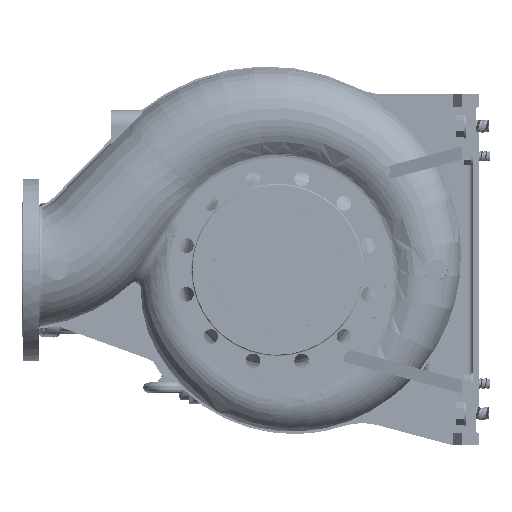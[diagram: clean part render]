
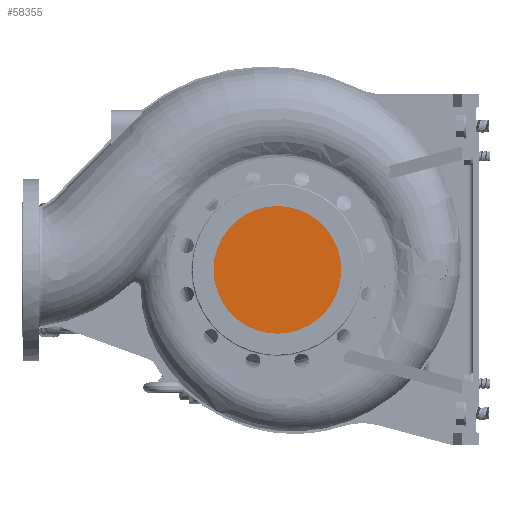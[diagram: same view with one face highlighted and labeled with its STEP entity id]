
A CAD part, left-side view. The second image highlights one B-rep face of the part: STEP entity #58355.
In plain terms, the highlighted planar face has unit normal (-1, 0, 0).
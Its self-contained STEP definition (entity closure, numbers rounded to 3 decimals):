
#401 = CARTESIAN_POINT ( 'NONE',  ( -149.998, -13.09, 99.355 ) ) ;
#448 = CARTESIAN_POINT ( 'NONE',  ( -149.998, 96.802, -25.928 ) ) ;
#1294 = CARTESIAN_POINT ( 'NONE',  ( -149.998, -100., 6.545 ) ) ;
#1339 = CARTESIAN_POINT ( 'NONE',  ( -149.998, 44.315, 89.883 ) ) ;
#2163 = CARTESIAN_POINT ( 'NONE',  ( -149.998, -75.339, 66.083 ) ) ;
#4834 = CARTESIAN_POINT ( 'NONE',  ( -149.998, -66.083, -75.339 ) ) ;
#13994 = CARTESIAN_POINT ( 'NONE',  ( -149.998, 79.511, -60.999 ) ) ;
#14892 = CARTESIAN_POINT ( 'NONE',  ( -149.998, 66.083, 75.339 ) ) ;
#16615 = CARTESIAN_POINT ( 'NONE',  ( -149.998, -32.222, 94.893 ) ) ;
#16663 = CARTESIAN_POINT ( 'NONE',  ( -149.998, 89.883, -44.315 ) ) ;
#17996 = EDGE_CURVE ( 'NONE', #22426, #149274, #138434, .T. ) ;
#20157 = CARTESIAN_POINT ( 'NONE',  ( -149.998, -50.115, -86.783 ) ) ;
#22426 = VERTEX_POINT ( 'NONE', #32345 ) ;
#24644 = PLANE ( 'NONE',  #178271 ) ;
#27558 = CARTESIAN_POINT ( 'NONE',  ( -149.998, 25.928, -96.802 ) ) ;
#28441 = CARTESIAN_POINT ( 'NONE',  ( -149.998, 100., -6.545 ) ) ;
#29291 = CARTESIAN_POINT ( 'NONE',  ( -149.998, -100., -6.545 ) ) ;
#29339 = CARTESIAN_POINT ( 'NONE',  ( -149.998, 32.222, -94.893 ) ) ;
#30243 = CARTESIAN_POINT ( 'NONE',  ( -149.998, 60.999, -79.511 ) ) ;
#32345 = CARTESIAN_POINT ( 'NONE',  ( -149.998, 0., -100. ) ) ;
#34624 = CARTESIAN_POINT ( 'NONE',  ( -149.998, -44.315, -89.883 ) ) ;
#41992 = CARTESIAN_POINT ( 'NONE',  ( -149.998, 79.511, 60.999 ) ) ;
#42878 = CARTESIAN_POINT ( 'NONE',  ( -149.998, 94.893, 32.222 ) ) ;
#43719 = CARTESIAN_POINT ( 'NONE',  ( -149.998, -99.355, 13.09 ) ) ;
#43765 = CARTESIAN_POINT ( 'NONE',  ( -149.998, 6.545, -100. ) ) ;
#45501 = CARTESIAN_POINT ( 'NONE',  ( -149.998, -6.545, -100. ) ) ;
#47324 = CARTESIAN_POINT ( 'NONE',  ( -149.998, 0., 100. ) ) ;
#48171 = CARTESIAN_POINT ( 'NONE',  ( -149.998, -25.928, -96.802 ) ) ;
#55523 = CARTESIAN_POINT ( 'NONE',  ( -149.998, -25.928, 96.802 ) ) ;
#55573 = CARTESIAN_POINT ( 'NONE',  ( -149.998, 99.355, -13.09 ) ) ;
#56238 = DIRECTION ( 'NONE',  ( 0., 0., 1. ) ) ;
#58355 = ADVANCED_FACE ( 'NONE', ( #148399 ), #24644, .T. ) ;
#59961 = CARTESIAN_POINT ( 'NONE',  ( -149.998, -89.883, -44.315 ) ) ;
#60004 = CARTESIAN_POINT ( 'NONE',  ( -149.998, 25.928, 96.802 ) ) ;
#69132 = CARTESIAN_POINT ( 'NONE',  ( -149.998, 86.783, -50.115 ) ) ;
#69980 = CARTESIAN_POINT ( 'NONE',  ( -149.998, -86.783, 50.115 ) ) ;
#70030 = CARTESIAN_POINT ( 'NONE',  ( -149.998, 60.999, 79.511 ) ) ;
#71805 = CARTESIAN_POINT ( 'NONE',  ( -149.998, 100., 6.545 ) ) ;
#73584 = CARTESIAN_POINT ( 'NONE',  ( -149.998, 13.09, 99.355 ) ) ;
#74412 = CARTESIAN_POINT ( 'NONE',  ( -149.998, -94.893, -32.222 ) ) ;
#79795 = CARTESIAN_POINT ( 'NONE',  ( -149.998, -101.2, -101.2 ) ) ;
#82647 = CARTESIAN_POINT ( 'NONE',  ( -149.998, 0., 100. ) ) ;
#82692 = CARTESIAN_POINT ( 'NONE',  ( -149.998, 66.083, -75.339 ) ) ;
#86206 = CARTESIAN_POINT ( 'NONE',  ( -149.998, -86.783, -50.115 ) ) ;
#97094 = CARTESIAN_POINT ( 'NONE',  ( -149.998, -60.999, 79.511 ) ) ;
#97983 = CARTESIAN_POINT ( 'NONE',  ( -149.998, -6.545, 100. ) ) ;
#98030 = CARTESIAN_POINT ( 'NONE',  ( -149.998, 86.783, 50.115 ) ) ;
#98931 = CARTESIAN_POINT ( 'NONE',  ( -149.998, 13.09, -99.355 ) ) ;
#102436 = CARTESIAN_POINT ( 'NONE',  ( -149.998, -13.09, -99.355 ) ) ;
#108904 = CARTESIAN_POINT ( 'NONE',  ( -149.998, 75.339, 66.083 ) ) ;
#110702 = CARTESIAN_POINT ( 'NONE',  ( -149.998, 96.802, 25.928 ) ) ;
#115151 = ORIENTED_EDGE ( 'NONE', *, *, #17996, .F. ) ;
#115983 = CARTESIAN_POINT ( 'NONE',  ( -149.998, -96.802, -25.928 ) ) ;
#116028 = CARTESIAN_POINT ( 'NONE',  ( -149.998, 6.545, 100. ) ) ;
#116874 = CARTESIAN_POINT ( 'NONE',  ( -149.998, -32.222, -94.893 ) ) ;
#121756 = CARTESIAN_POINT ( 'NONE',  ( -149.998, 0., 100. ) ) ;
#123252 = ORIENTED_EDGE ( 'NONE', *, *, #148605, .F. ) ;
#124240 = CARTESIAN_POINT ( 'NONE',  ( -149.998, 94.893, -32.222 ) ) ;
#125080 = CARTESIAN_POINT ( 'NONE',  ( -149.998, -96.802, 25.928 ) ) ;
#125127 = CARTESIAN_POINT ( 'NONE',  ( -149.998, 50.115, 86.783 ) ) ;
#125975 = CARTESIAN_POINT ( 'NONE',  ( -149.998, -50.115, 86.783 ) ) ;
#126915 = CARTESIAN_POINT ( 'NONE',  ( -149.998, 99.355, 13.09 ) ) ;
#128105 = B_SPLINE_CURVE_WITH_KNOTS ( 'NONE', 3,
 ( #82647, #97983, #401, #55523, #16615, #165747, #125975, #97094, #152150, #2163, #138613, #69980, #153049, #139514, #125080, #43719, #1294, #29291, #159280, #115983, #74412, #59961, #86206, #130398, #171952, #4834, #129522, #20157, #34624, #116874, #48171, #102436, #45501, #141273 ),
 .UNSPECIFIED., .F., .F.,
 ( 4, 2, 2, 2, 2, 2, 2, 2, 2, 2, 2, 2, 2, 2, 2, 2, 4 ),
 ( 0., 0.063, 0.125, 0.188, 0.25, 0.313, 0.375, 0.438, 0.5, 0.562, 0.625, 0.687, 0.75, 0.812, 0.875, 0.937, 1. ),
 .UNSPECIFIED. ) ;
#129522 = CARTESIAN_POINT ( 'NONE',  ( -149.998, -60.999, -79.511 ) ) ;
#130398 = CARTESIAN_POINT ( 'NONE',  ( -149.998, -79.511, -60.999 ) ) ;
#137547 = DIRECTION ( 'NONE',  ( -1., 0., 0. ) ) ;
#138434 = B_SPLINE_CURVE_WITH_KNOTS ( 'NONE', 3,
 ( #151315, #43765, #98931, #27558, #29339, #152198, #153998, #30243, #82692, #140441, #13994, #69132, #16663, #124240, #448, #55573, #28441, #71805, #126915, #110702, #42878, #165795, #98030, #41992, #108904, #14892, #70030, #125127, #1339, #163995, #60004, #73584, #116028, #47324 ),
 .UNSPECIFIED., .F., .F.,
 ( 4, 2, 2, 2, 2, 2, 2, 2, 2, 2, 2, 2, 2, 2, 2, 2, 4 ),
 ( 0., 0.062, 0.125, 0.187, 0.25, 0.312, 0.375, 0.437, 0.5, 0.562, 0.625, 0.687, 0.75, 0.812, 0.875, 0.937, 1. ),
 .UNSPECIFIED. ) ;
#138613 = CARTESIAN_POINT ( 'NONE',  ( -149.998, -79.511, 60.999 ) ) ;
#139514 = CARTESIAN_POINT ( 'NONE',  ( -149.998, -94.893, 32.222 ) ) ;
#140441 = CARTESIAN_POINT ( 'NONE',  ( -149.998, 75.339, -66.083 ) ) ;
#141273 = CARTESIAN_POINT ( 'NONE',  ( -149.998, 0., -100. ) ) ;
#148399 = FACE_OUTER_BOUND ( 'NONE', #163048, .T. ) ;
#148605 = EDGE_CURVE ( 'NONE', #149274, #22426, #128105, .T. ) ;
#149274 = VERTEX_POINT ( 'NONE', #121756 ) ;
#151315 = CARTESIAN_POINT ( 'NONE',  ( -149.998, 0., -100. ) ) ;
#152150 = CARTESIAN_POINT ( 'NONE',  ( -149.998, -66.083, 75.339 ) ) ;
#152198 = CARTESIAN_POINT ( 'NONE',  ( -149.998, 44.315, -89.883 ) ) ;
#153049 = CARTESIAN_POINT ( 'NONE',  ( -149.998, -89.883, 44.315 ) ) ;
#153998 = CARTESIAN_POINT ( 'NONE',  ( -149.998, 50.115, -86.783 ) ) ;
#159280 = CARTESIAN_POINT ( 'NONE',  ( -149.998, -99.355, -13.09 ) ) ;
#163048 = EDGE_LOOP ( 'NONE', ( #115151, #123252 ) ) ;
#163995 = CARTESIAN_POINT ( 'NONE',  ( -149.998, 32.222, 94.893 ) ) ;
#165747 = CARTESIAN_POINT ( 'NONE',  ( -149.998, -44.315, 89.883 ) ) ;
#165795 = CARTESIAN_POINT ( 'NONE',  ( -149.998, 89.883, 44.315 ) ) ;
#171952 = CARTESIAN_POINT ( 'NONE',  ( -149.998, -75.339, -66.083 ) ) ;
#178271 = AXIS2_PLACEMENT_3D ( 'NONE', #79795, #137547, #56238 ) ;
